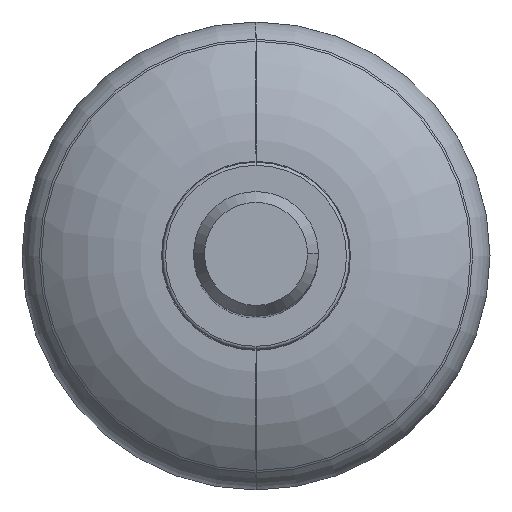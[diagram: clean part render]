
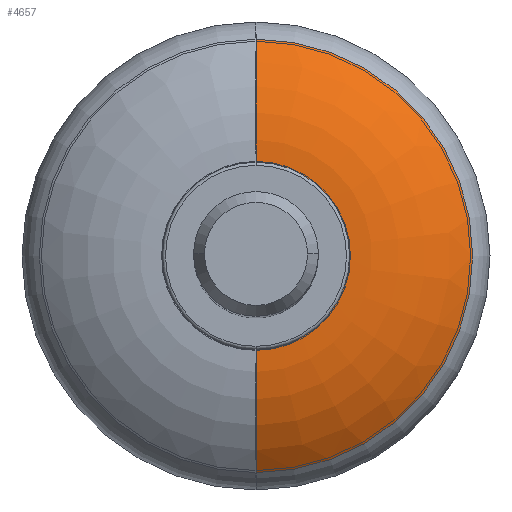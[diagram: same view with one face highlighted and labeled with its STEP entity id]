
A CAD part, top view. The second image highlights one B-rep face of the part: STEP entity #4657.
In plain terms, the highlighted toroidal (fillet/blend) face has major radius 15.132 mm and minor radius 30 mm.
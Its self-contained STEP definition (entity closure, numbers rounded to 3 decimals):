
#49 = VERTEX_POINT ( 'NONE', #3137 ) ;
#255 = CARTESIAN_POINT ( 'NONE',  ( 0., -34.719, -9.277 ) ) ;
#295 = CIRCLE ( 'NONE', #1953, 34.719 ) ;
#382 = EDGE_CURVE ( 'NONE', #1296, #3831, #295, .T. ) ;
#468 = EDGE_CURVE ( 'NONE', #5068, #1296, #4343, .T. ) ;
#472 = DIRECTION ( 'NONE',  ( -1., 0., 0. ) ) ;
#485 = DIRECTION ( 'NONE',  ( 0., 0., -1. ) ) ;
#558 = DIRECTION ( 'NONE',  ( 0., 1., 0. ) ) ;
#582 = CARTESIAN_POINT ( 'NONE',  ( 0., 0., -32. ) ) ;
#786 = ORIENTED_EDGE ( 'NONE', *, *, #5022, .T. ) ;
#847 = EDGE_CURVE ( 'NONE', #3831, #49, #3420, .T. ) ;
#921 = CARTESIAN_POINT ( 'NONE',  ( 0., 0., -9.277 ) ) ;
#1017 = CARTESIAN_POINT ( 'NONE',  ( 0., 15.132, -32. ) ) ;
#1214 = AXIS2_PLACEMENT_3D ( 'NONE', #1703, #472, #1261 ) ;
#1261 = DIRECTION ( 'NONE',  ( 0., -1., 0. ) ) ;
#1292 = AXIS2_PLACEMENT_3D ( 'NONE', #1017, #4072, #558 ) ;
#1296 = VERTEX_POINT ( 'NONE', #3882 ) ;
#1312 = CARTESIAN_POINT ( 'NONE',  ( 0., 14.159, -2.016 ) ) ;
#1415 = DIRECTION ( 'NONE',  ( 0., 0., -1. ) ) ;
#1703 = CARTESIAN_POINT ( 'NONE',  ( 0., -15.132, -32. ) ) ;
#1755 = CIRCLE ( 'NONE', #2583, 14.159 ) ;
#1760 = AXIS2_PLACEMENT_3D ( 'NONE', #582, #1415, #4177 ) ;
#1881 = CARTESIAN_POINT ( 'NONE',  ( 0., 0., -2.016 ) ) ;
#1953 = AXIS2_PLACEMENT_3D ( 'NONE', #921, #485, #2492 ) ;
#1976 = ORIENTED_EDGE ( 'NONE', *, *, #382, .F. ) ;
#2214 = EDGE_LOOP ( 'NONE', ( #2550, #786, #2983, #1976 ) ) ;
#2492 = DIRECTION ( 'NONE',  ( 0., 1., 0. ) ) ;
#2550 = ORIENTED_EDGE ( 'NONE', *, *, #468, .F. ) ;
#2583 = AXIS2_PLACEMENT_3D ( 'NONE', #1881, #3453, #4334 ) ;
#2983 = ORIENTED_EDGE ( 'NONE', *, *, #847, .F. ) ;
#3137 = CARTESIAN_POINT ( 'NONE',  ( 0., -14.159, -2.016 ) ) ;
#3420 = CIRCLE ( 'NONE', #1214, 30. ) ;
#3453 = DIRECTION ( 'NONE',  ( 0., 0., -1. ) ) ;
#3831 = VERTEX_POINT ( 'NONE', #255 ) ;
#3882 = CARTESIAN_POINT ( 'NONE',  ( 0., 34.719, -9.277 ) ) ;
#4026 = FACE_OUTER_BOUND ( 'NONE', #2214, .T. ) ;
#4055 = TOROIDAL_SURFACE ( 'NONE', #1760, 15.132, 30. ) ;
#4072 = DIRECTION ( 'NONE',  ( -1., 0., 0. ) ) ;
#4177 = DIRECTION ( 'NONE',  ( 0., 1., 0. ) ) ;
#4334 = DIRECTION ( 'NONE',  ( 0., 1., 0. ) ) ;
#4343 = CIRCLE ( 'NONE', #1292, 30. ) ;
#4657 = ADVANCED_FACE ( 'NONE', ( #4026 ), #4055, .T. ) ;
#5022 = EDGE_CURVE ( 'NONE', #5068, #49, #1755, .T. ) ;
#5068 = VERTEX_POINT ( 'NONE', #1312 ) ;
